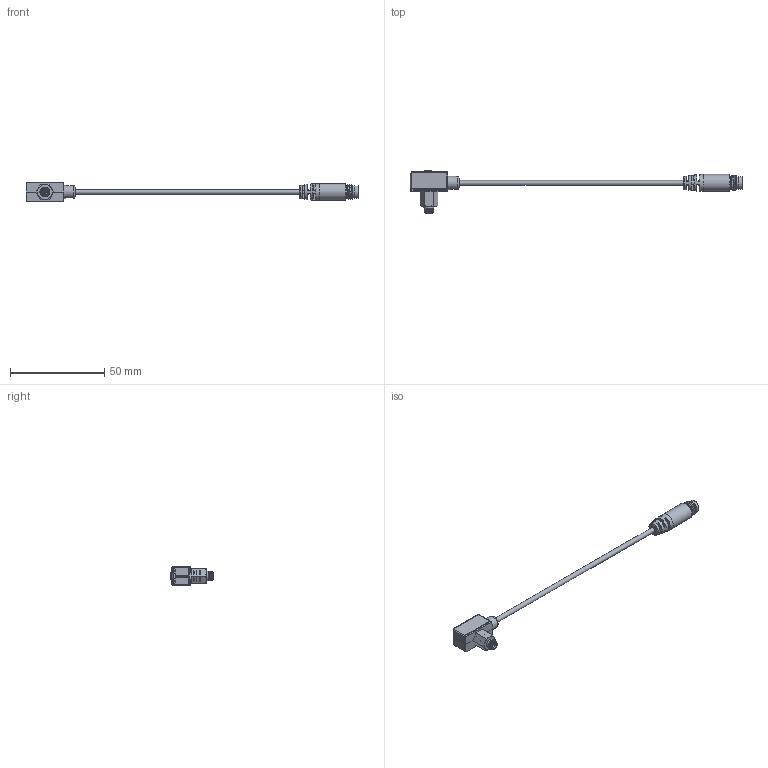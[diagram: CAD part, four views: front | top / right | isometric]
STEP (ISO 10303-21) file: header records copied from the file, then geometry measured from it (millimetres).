
FILE_DESCRIPTION(('STEP AP214'),'1');
FILE_NAME('82M5-N(P)C.stp','2026-04-16T04:57:38',(' '),(' '),'Spatial InterOp 3D',' ',' ');
FILE_SCHEMA(('AUTOMOTIVE_DESIGN { 1 0 10303 214 1 1 1 1 }'));
Length unit declared in the file: millimetre
Products named in the file (5): MPS-※82M5-N(P)C
Assembly tree (4 placements, depth 2):
  MPS-※82M5-N(P)C
    MPS-※82M5-N(P)C
    MPS-※82M5-N(P)C
    MPS-※82M5-N(P)C
    MPS-※82M5-N(P)C
Bounding box: 176 x 22.5 x 10 mm (x, y, z)
Volume: 3722 mm3; surface area: 6023.2 mm2
Topology: 4 solids, 4 shells, 631 faces, 1717 edges, 1124 vertices
Faces by surface type: plane 432, cylinder 142, cone 26, bspline 16, sphere 10, torus 5
Full cylindrical faces by diameter (mm): 1 x5, 1.1 x1, 2 x1, 2.5 x1, 2.6 x1, 2.7 x2, 3 x1, 3.8 x1, 4.6 x1, 4.7 x1, 5 x1, 5.1 x1, 5.8 x1, 5.89 x1, 6.2 x2, 6.45 x1, 6.5 x1, 6.9 x1, 7.15 x1, 7.2 x2, 9 x1
Entity records: 28237 total; most frequent: CARTESIAN_POINT 7695, ORIENTED_EDGE 3268, DIRECTION 2959, EDGE_CURVE 1634, LINE 1153, VECTOR 1153, VERTEX_POINT 1100, AXIS2_PLACEMENT_3D 903
